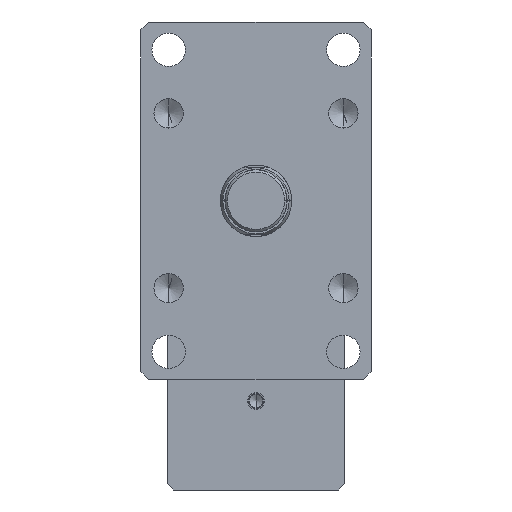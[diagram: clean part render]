
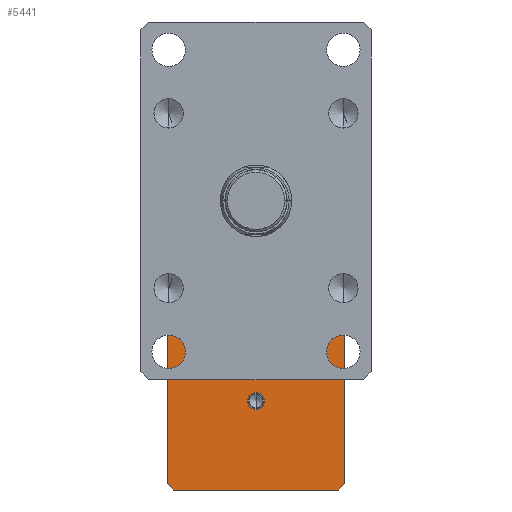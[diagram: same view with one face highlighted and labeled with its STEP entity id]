
A CAD part, left-side view. The second image highlights one B-rep face of the part: STEP entity #5441.
In plain terms, the highlighted planar face has unit normal (-1, 0, 0).
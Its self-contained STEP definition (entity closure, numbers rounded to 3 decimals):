
#127 = VERTEX_POINT ( 'NONE', #4181 ) ;
#381 = VECTOR ( 'NONE', #7308, 1000. ) ;
#475 = DIRECTION ( 'NONE',  ( 0., 0., 1. ) ) ;
#759 = ORIENTED_EDGE ( 'NONE', *, *, #3350, .T. ) ;
#1106 = AXIS2_PLACEMENT_3D ( 'NONE', #8693, #2783, #9684 ) ;
#1110 = DIRECTION ( 'NONE',  ( 0., 0., -1. ) ) ;
#1165 = VERTEX_POINT ( 'NONE', #12385 ) ;
#1246 = ORIENTED_EDGE ( 'NONE', *, *, #6955, .T. ) ;
#1264 = EDGE_LOOP ( 'NONE', ( #3352, #1246, #759, #3882, #10674, #1381, #2503, #4166 ) ) ;
#1285 = DIRECTION ( 'NONE',  ( 0., -0.707, -0.707 ) ) ;
#1381 = ORIENTED_EDGE ( 'NONE', *, *, #4178, .T. ) ;
#1437 = VERTEX_POINT ( 'NONE', #9017 ) ;
#1613 = LINE ( 'NONE', #3833, #9484 ) ;
#1758 = DIRECTION ( 'NONE',  ( 0., 0., 1. ) ) ;
#1806 = CARTESIAN_POINT ( 'NONE',  ( 375., -56., -178. ) ) ;
#1855 = CARTESIAN_POINT ( 'NONE',  ( 375., -52., -182. ) ) ;
#2309 = FACE_BOUND ( 'NONE', #9534, .T. ) ;
#2503 = ORIENTED_EDGE ( 'NONE', *, *, #11507, .F. ) ;
#2505 = LINE ( 'NONE', #7190, #10068 ) ;
#2653 = DIRECTION ( 'NONE',  ( 0., 0.707, -0.707 ) ) ;
#2684 = LINE ( 'NONE', #10147, #7937 ) ;
#2783 = DIRECTION ( 'NONE',  ( -1., 0., 0. ) ) ;
#2946 = EDGE_CURVE ( 'NONE', #11053, #1437, #11668, .T. ) ;
#3023 = CARTESIAN_POINT ( 'NONE',  ( 375., -56., -182. ) ) ;
#3162 = EDGE_CURVE ( 'NONE', #8834, #8948, #4543, .T. ) ;
#3350 = EDGE_CURVE ( 'NONE', #127, #8834, #2684, .T. ) ;
#3352 = ORIENTED_EDGE ( 'NONE', *, *, #7496, .T. ) ;
#3833 = CARTESIAN_POINT ( 'NONE',  ( 375., -56., -182. ) ) ;
#3882 = ORIENTED_EDGE ( 'NONE', *, *, #3162, .T. ) ;
#4066 = VECTOR ( 'NONE', #1758, 1000. ) ;
#4166 = ORIENTED_EDGE ( 'NONE', *, *, #7846, .T. ) ;
#4178 = EDGE_CURVE ( 'NONE', #8701, #1165, #2505, .T. ) ;
#4181 = CARTESIAN_POINT ( 'NONE',  ( 375., -52., -70. ) ) ;
#4543 = LINE ( 'NONE', #8585, #12125 ) ;
#5166 = DIRECTION ( 'NONE',  ( 0., 0., 1. ) ) ;
#5179 = DIRECTION ( 'NONE',  ( 0., 1., 0. ) ) ;
#5441 = ADVANCED_FACE ( 'NONE', ( #2309, #7249 ), #11908, .F. ) ;
#5464 = CARTESIAN_POINT ( 'NONE',  ( 375., 52., -70. ) ) ;
#5569 = CARTESIAN_POINT ( 'NONE',  ( 375., -56., -74. ) ) ;
#6200 = LINE ( 'NONE', #12092, #8845 ) ;
#6274 = VERTEX_POINT ( 'NONE', #1806 ) ;
#6353 = DIRECTION ( 'NONE',  ( -1., 0., 0. ) ) ;
#6526 = CARTESIAN_POINT ( 'NONE',  ( 375., -56., -74. ) ) ;
#6892 = CARTESIAN_POINT ( 'NONE',  ( 375., 56., -74. ) ) ;
#6955 = EDGE_CURVE ( 'NONE', #7085, #127, #9026, .T. ) ;
#7004 = DIRECTION ( 'NONE',  ( 1., 0., 0. ) ) ;
#7008 = LINE ( 'NONE', #8608, #4066 ) ;
#7085 = VERTEX_POINT ( 'NONE', #5569 ) ;
#7190 = CARTESIAN_POINT ( 'NONE',  ( 375., 52., -182. ) ) ;
#7249 = FACE_OUTER_BOUND ( 'NONE', #1264, .T. ) ;
#7308 = DIRECTION ( 'NONE',  ( 0., -0.707, 0.707 ) ) ;
#7496 = EDGE_CURVE ( 'NONE', #6274, #7085, #7008, .T. ) ;
#7846 = EDGE_CURVE ( 'NONE', #9388, #6274, #8858, .T. ) ;
#7937 = VECTOR ( 'NONE', #5179, 1000. ) ;
#8075 = CARTESIAN_POINT ( 'NONE',  ( 375., 56., -178. ) ) ;
#8327 = EDGE_CURVE ( 'NONE', #8701, #8948, #6200, .T. ) ;
#8585 = CARTESIAN_POINT ( 'NONE',  ( 375., 56., -74. ) ) ;
#8608 = CARTESIAN_POINT ( 'NONE',  ( 375., -56., -182. ) ) ;
#8693 = CARTESIAN_POINT ( 'NONE',  ( 375., 0., -126. ) ) ;
#8701 = VERTEX_POINT ( 'NONE', #8075 ) ;
#8735 = ORIENTED_EDGE ( 'NONE', *, *, #2946, .F. ) ;
#8834 = VERTEX_POINT ( 'NONE', #5464 ) ;
#8845 = VECTOR ( 'NONE', #5166, 1000. ) ;
#8858 = LINE ( 'NONE', #12228, #381 ) ;
#8948 = VERTEX_POINT ( 'NONE', #6892 ) ;
#9017 = CARTESIAN_POINT ( 'NONE',  ( 375., 0., -131.143 ) ) ;
#9026 = LINE ( 'NONE', #6526, #11360 ) ;
#9388 = VERTEX_POINT ( 'NONE', #1855 ) ;
#9484 = VECTOR ( 'NONE', #10751, 1000. ) ;
#9534 = EDGE_LOOP ( 'NONE', ( #8735, #11247 ) ) ;
#9684 = DIRECTION ( 'NONE',  ( 0., 0., 1. ) ) ;
#9796 = CIRCLE ( 'NONE', #1106, 5.143 ) ;
#10068 = VECTOR ( 'NONE', #1285, 1000. ) ;
#10147 = CARTESIAN_POINT ( 'NONE',  ( 375., -56., -70. ) ) ;
#10674 = ORIENTED_EDGE ( 'NONE', *, *, #8327, .F. ) ;
#10751 = DIRECTION ( 'NONE',  ( 0., 1., 0. ) ) ;
#10900 = EDGE_CURVE ( 'NONE', #1437, #11053, #9796, .T. ) ;
#11053 = VERTEX_POINT ( 'NONE', #11812 ) ;
#11247 = ORIENTED_EDGE ( 'NONE', *, *, #10900, .F. ) ;
#11360 = VECTOR ( 'NONE', #11518, 1000. ) ;
#11507 = EDGE_CURVE ( 'NONE', #9388, #1165, #1613, .T. ) ;
#11518 = DIRECTION ( 'NONE',  ( 0., 0.707, 0.707 ) ) ;
#11668 = CIRCLE ( 'NONE', #12372, 5.143 ) ;
#11812 = CARTESIAN_POINT ( 'NONE',  ( 375., 0., -120.857 ) ) ;
#11908 = PLANE ( 'NONE',  #12695 ) ;
#12092 = CARTESIAN_POINT ( 'NONE',  ( 375., 56., -182. ) ) ;
#12125 = VECTOR ( 'NONE', #2653, 1000. ) ;
#12228 = CARTESIAN_POINT ( 'NONE',  ( 375., -52., -182. ) ) ;
#12287 = CARTESIAN_POINT ( 'NONE',  ( 375., 0., -126. ) ) ;
#12372 = AXIS2_PLACEMENT_3D ( 'NONE', #12287, #6353, #475 ) ;
#12385 = CARTESIAN_POINT ( 'NONE',  ( 375., 52., -182. ) ) ;
#12695 = AXIS2_PLACEMENT_3D ( 'NONE', #3023, #7004, #1110 ) ;
